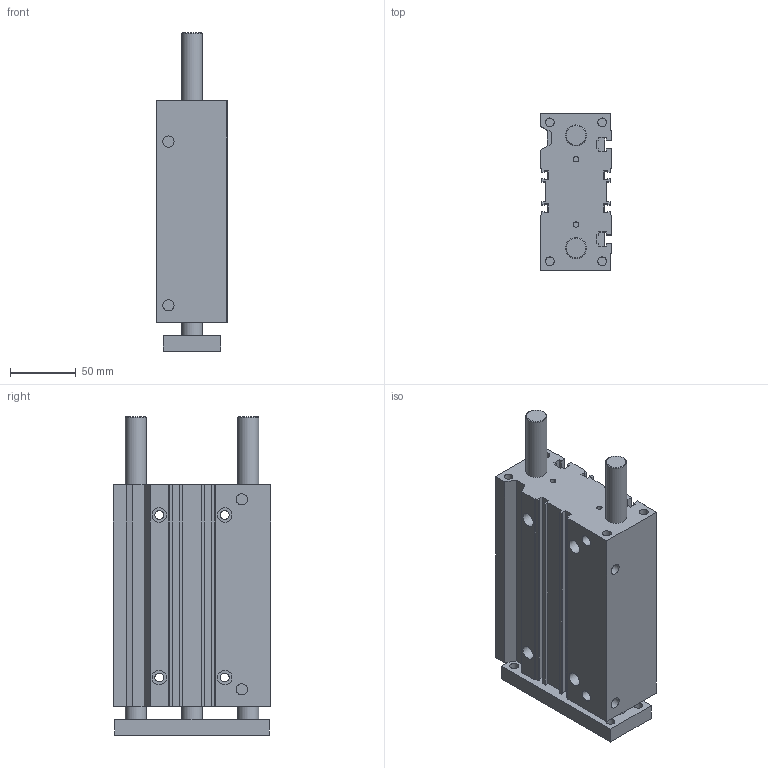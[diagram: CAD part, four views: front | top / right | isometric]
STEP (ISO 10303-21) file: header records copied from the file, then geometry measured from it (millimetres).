
FILE_DESCRIPTION((''),'2;1');
FILE_NAME('I:\Area Tecnica\Disegni\VARIE-3D\Componenti\6100\6100 Ø20-63\6100_##_###_#\6100400125C.stp','2012-01-11T09:09:36',('airolcr1'),(''),'Autodesk Inventor 2012','Autodesk Inventor 2012','');
FILE_SCHEMA(('AUTOMOTIVE_DESIGN { 1 0 10303 214 1 1 1 1 }'));
Length unit declared in the file: millimetre
Products named in the file (3): 6100400125C; CUCORPO Ø40 C125 C; CUPIASTRA Ø40 C125 C
Assembly tree (2 placements, depth 2):
  6100400125C
    CUCORPO Ø40 C125 C
    CUPIASTRA Ø40 C125 C
Bounding box: 54 x 120 x 243 mm (x, y, z)
Volume: 1087926.1 mm3; surface area: 163704.4 mm2
Topology: 2 solids, 2 shells, 166 faces, 417 edges, 277 vertices
Faces by surface type: plane 126, cylinder 38, cone 2
Full cylindrical faces by diameter (mm): 4 x6, 6.647 x8, 6.65 x4, 8.566 x4, 11 x4, 16 x6
Entity records: 5013 total; most frequent: CARTESIAN_POINT 815, DIRECTION 798, ORIENTED_EDGE 750, EDGE_CURVE 375, VECTOR 294, LINE 294, VERTEX_POINT 269, AXIS2_PLACEMENT_3D 252
